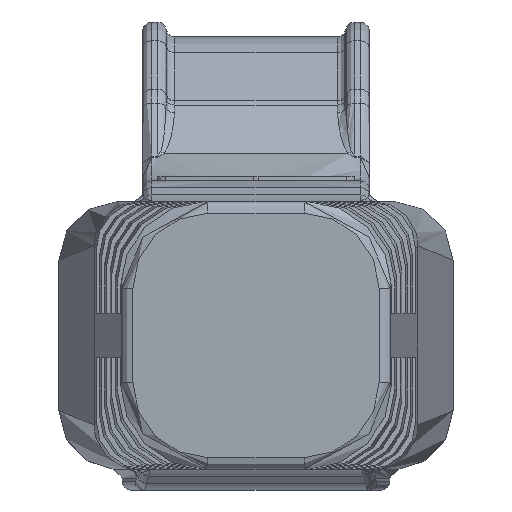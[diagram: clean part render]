
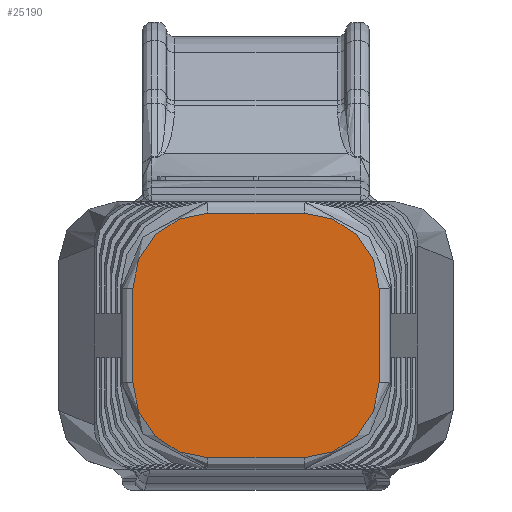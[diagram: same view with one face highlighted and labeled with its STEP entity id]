
A CAD part, front view. The second image highlights one B-rep face of the part: STEP entity #25190.
In plain terms, the highlighted planar face has unit normal (0, -1, 0).
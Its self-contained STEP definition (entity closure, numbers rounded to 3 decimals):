
#1368=ELLIPSE('',#26766,2.541,2.527);
#1369=ELLIPSE('',#26770,2.541,2.527);
#1370=ELLIPSE('',#26774,2.541,2.527);
#1371=ELLIPSE('',#26777,2.541,2.527);
#2260=FACE_OUTER_BOUND('',#3582,.T.);
#3582=EDGE_LOOP('',(#19533,#19534,#19535,#19536,#19537,#19538,#19539,#19540));
#5950=LINE('',#41139,#8589);
#5951=LINE('',#41172,#8590);
#5952=LINE('',#41204,#8591);
#5953=LINE('',#41236,#8592);
#8589=VECTOR('',#31534,10.);
#8590=VECTOR('',#31545,10.);
#8591=VECTOR('',#31554,10.);
#8592=VECTOR('',#31563,10.);
#10915=VERTEX_POINT('',#41136);
#10916=VERTEX_POINT('',#41138);
#10917=VERTEX_POINT('',#41166);
#10918=VERTEX_POINT('',#41170);
#10919=VERTEX_POINT('',#41198);
#10920=VERTEX_POINT('',#41202);
#10921=VERTEX_POINT('',#41230);
#10922=VERTEX_POINT('',#41234);
#13940=EDGE_CURVE('',#10915,#10916,#5950,.T.);
#13943=EDGE_CURVE('',#10916,#10917,#1368,.T.);
#13945=EDGE_CURVE('',#10917,#10918,#5951,.T.);
#13947=EDGE_CURVE('',#10918,#10919,#1369,.T.);
#13949=EDGE_CURVE('',#10919,#10920,#5952,.T.);
#13951=EDGE_CURVE('',#10920,#10921,#1370,.T.);
#13953=EDGE_CURVE('',#10921,#10922,#5953,.T.);
#13954=EDGE_CURVE('',#10922,#10915,#1371,.T.);
#19533=ORIENTED_EDGE('',*,*,#13940,.F.);
#19534=ORIENTED_EDGE('',*,*,#13954,.F.);
#19535=ORIENTED_EDGE('',*,*,#13953,.F.);
#19536=ORIENTED_EDGE('',*,*,#13951,.F.);
#19537=ORIENTED_EDGE('',*,*,#13949,.F.);
#19538=ORIENTED_EDGE('',*,*,#13947,.F.);
#19539=ORIENTED_EDGE('',*,*,#13945,.F.);
#19540=ORIENTED_EDGE('',*,*,#13943,.F.);
#22831=PLANE('',#26778);
#25190=ADVANCED_FACE('',(#2260),#22831,.F.);
#26766=AXIS2_PLACEMENT_3D('',#41168,#31539,#31540);
#26770=AXIS2_PLACEMENT_3D('',#41200,#31548,#31549);
#26774=AXIS2_PLACEMENT_3D('',#41232,#31557,#31558);
#26777=AXIS2_PLACEMENT_3D('',#41262,#31564,#31565);
#26778=AXIS2_PLACEMENT_3D('',#41263,#31566,#31567);
#31534=DIRECTION('',(1.,0.,0.));
#31539=DIRECTION('center_axis',(0.,1.,0.));
#31540=DIRECTION('ref_axis',(0.523,0.,-0.853));
#31545=DIRECTION('',(0.,0.,-1.));
#31548=DIRECTION('center_axis',(0.,1.,0.));
#31549=DIRECTION('ref_axis',(-0.523,0.,-0.853));
#31554=DIRECTION('',(-1.,0.,0.));
#31557=DIRECTION('center_axis',(0.,1.,0.));
#31558=DIRECTION('ref_axis',(0.523,0.,-0.853));
#31563=DIRECTION('',(0.,0.,1.));
#31564=DIRECTION('center_axis',(0.,1.,0.));
#31565=DIRECTION('ref_axis',(-0.523,0.,-0.853));
#31566=DIRECTION('center_axis',(0.,1.,0.));
#31567=DIRECTION('ref_axis',(-1.,0.,0.));
#41136=CARTESIAN_POINT('',(-1.641,-10.68,0.8));
#41138=CARTESIAN_POINT('',(1.641,-10.68,0.8));
#41139=CARTESIAN_POINT('',(-3.35,-10.68,0.8));
#41166=CARTESIAN_POINT('',(4.184,-10.68,-1.749));
#41168=CARTESIAN_POINT('Origin',(1.653,-10.68,-1.737));
#41170=CARTESIAN_POINT('',(4.184,-10.68,-4.951));
#41172=CARTESIAN_POINT('',(4.184,-10.68,-1.825));
#41198=CARTESIAN_POINT('',(1.641,-10.68,-7.5));
#41200=CARTESIAN_POINT('Origin',(1.653,-10.68,-4.963));
#41202=CARTESIAN_POINT('',(-1.641,-10.68,-7.5));
#41204=CARTESIAN_POINT('',(3.35,-10.68,-7.5));
#41230=CARTESIAN_POINT('',(-4.184,-10.68,-4.951));
#41232=CARTESIAN_POINT('Origin',(-1.653,-10.68,-4.963));
#41234=CARTESIAN_POINT('',(-4.184,-10.68,-1.749));
#41236=CARTESIAN_POINT('',(-4.184,-10.68,-4.875));
#41262=CARTESIAN_POINT('Origin',(-1.653,-10.68,-1.737));
#41263=CARTESIAN_POINT('Origin',(0.,-10.68,
-3.35));
